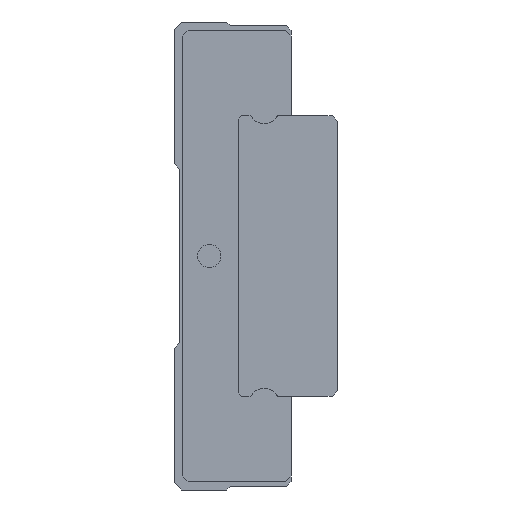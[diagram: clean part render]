
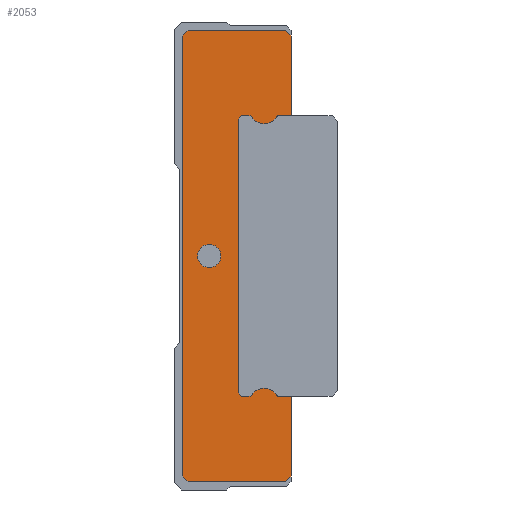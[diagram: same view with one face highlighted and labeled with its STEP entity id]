
A CAD part, left-side view. The second image highlights one B-rep face of the part: STEP entity #2053.
In plain terms, the highlighted planar face has unit normal (-1, 0, 0).
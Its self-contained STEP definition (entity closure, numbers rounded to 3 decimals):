
#81=CIRCLE('',#2239,1.);
#82=CIRCLE('',#2240,0.15);
#83=CIRCLE('',#2241,1.25);
#84=CIRCLE('',#2242,0.15);
#85=CIRCLE('',#2243,0.15);
#86=CIRCLE('',#2244,1.25);
#87=CIRCLE('',#2245,0.15);
#309=ORIENTED_EDGE('',*,*,#799,.T.);
#310=ORIENTED_EDGE('',*,*,#800,.T.);
#311=ORIENTED_EDGE('',*,*,#767,.F.);
#312=ORIENTED_EDGE('',*,*,#801,.F.);
#313=ORIENTED_EDGE('',*,*,#802,.F.);
#314=ORIENTED_EDGE('',*,*,#803,.F.);
#315=ORIENTED_EDGE('',*,*,#804,.F.);
#316=ORIENTED_EDGE('',*,*,#805,.F.);
#317=ORIENTED_EDGE('',*,*,#806,.F.);
#318=ORIENTED_EDGE('',*,*,#807,.F.);
#319=ORIENTED_EDGE('',*,*,#769,.F.);
#320=ORIENTED_EDGE('',*,*,#808,.F.);
#321=ORIENTED_EDGE('',*,*,#809,.T.);
#322=ORIENTED_EDGE('',*,*,#810,.F.);
#323=ORIENTED_EDGE('',*,*,#811,.T.);
#324=ORIENTED_EDGE('',*,*,#812,.T.);
#325=ORIENTED_EDGE('',*,*,#813,.T.);
#326=ORIENTED_EDGE('',*,*,#814,.T.);
#327=ORIENTED_EDGE('',*,*,#815,.T.);
#328=ORIENTED_EDGE('',*,*,#816,.T.);
#329=ORIENTED_EDGE('',*,*,#817,.T.);
#330=ORIENTED_EDGE('',*,*,#818,.F.);
#331=ORIENTED_EDGE('',*,*,#819,.T.);
#767=EDGE_CURVE('',#1031,#1023,#1215,.T.);
#769=EDGE_CURVE('',#1032,#1034,#1217,.T.);
#799=EDGE_CURVE('',#1061,#1061,#81,.T.);
#800=EDGE_CURVE('',#1062,#1023,#1240,.T.);
#801=EDGE_CURVE('',#1063,#1031,#1241,.T.);
#802=EDGE_CURVE('',#1064,#1063,#1242,.T.);
#803=EDGE_CURVE('',#1065,#1064,#1243,.T.);
#804=EDGE_CURVE('',#1066,#1065,#1244,.T.);
#805=EDGE_CURVE('',#1067,#1066,#1245,.T.);
#806=EDGE_CURVE('',#1068,#1067,#1246,.T.);
#807=EDGE_CURVE('',#1034,#1068,#1247,.T.);
#808=EDGE_CURVE('',#1069,#1032,#1248,.T.);
#809=EDGE_CURVE('',#1069,#1070,#82,.T.);
#810=EDGE_CURVE('',#1071,#1070,#83,.T.);
#811=EDGE_CURVE('',#1071,#1072,#84,.T.);
#812=EDGE_CURVE('',#1072,#1073,#1249,.T.);
#813=EDGE_CURVE('',#1073,#1074,#1250,.T.);
#814=EDGE_CURVE('',#1074,#1075,#1251,.T.);
#815=EDGE_CURVE('',#1075,#1076,#1252,.T.);
#816=EDGE_CURVE('',#1076,#1077,#1253,.T.);
#817=EDGE_CURVE('',#1077,#1078,#85,.T.);
#818=EDGE_CURVE('',#1079,#1078,#86,.T.);
#819=EDGE_CURVE('',#1079,#1062,#87,.T.);
#1023=VERTEX_POINT('',#3085);
#1031=VERTEX_POINT('',#3101);
#1032=VERTEX_POINT('',#3105);
#1034=VERTEX_POINT('',#3108);
#1061=VERTEX_POINT('',#3167);
#1062=VERTEX_POINT('',#3169);
#1063=VERTEX_POINT('',#3171);
#1064=VERTEX_POINT('',#3173);
#1065=VERTEX_POINT('',#3175);
#1066=VERTEX_POINT('',#3177);
#1067=VERTEX_POINT('',#3179);
#1068=VERTEX_POINT('',#3181);
#1069=VERTEX_POINT('',#3184);
#1070=VERTEX_POINT('',#3186);
#1071=VERTEX_POINT('',#3188);
#1072=VERTEX_POINT('',#3190);
#1073=VERTEX_POINT('',#3192);
#1074=VERTEX_POINT('',#3194);
#1075=VERTEX_POINT('',#3196);
#1076=VERTEX_POINT('',#3198);
#1077=VERTEX_POINT('',#3200);
#1078=VERTEX_POINT('',#3202);
#1079=VERTEX_POINT('',#3204);
#1215=LINE('',#3102,#1435);
#1217=LINE('',#3107,#1437);
#1240=LINE('',#3168,#1460);
#1241=LINE('',#3170,#1461);
#1242=LINE('',#3172,#1462);
#1243=LINE('',#3174,#1463);
#1244=LINE('',#3176,#1464);
#1245=LINE('',#3178,#1465);
#1246=LINE('',#3180,#1466);
#1247=LINE('',#3182,#1467);
#1248=LINE('',#3183,#1468);
#1249=LINE('',#3191,#1469);
#1250=LINE('',#3193,#1470);
#1251=LINE('',#3195,#1471);
#1252=LINE('',#3197,#1472);
#1253=LINE('',#3199,#1473);
#1435=VECTOR('',#2524,1000.);
#1437=VECTOR('',#2528,1000.);
#1460=VECTOR('',#2571,1000.);
#1461=VECTOR('',#2572,1000.);
#1462=VECTOR('',#2573,1000.);
#1463=VECTOR('',#2574,1000.);
#1464=VECTOR('',#2575,1000.);
#1465=VECTOR('',#2576,1000.);
#1466=VECTOR('',#2577,1000.);
#1467=VECTOR('',#2578,1000.);
#1468=VECTOR('',#2579,1000.);
#1469=VECTOR('',#2586,1000.);
#1470=VECTOR('',#2587,1000.);
#1471=VECTOR('',#2588,1000.);
#1472=VECTOR('',#2589,1000.);
#1473=VECTOR('',#2590,1000.);
#1672=EDGE_LOOP('',(#309));
#1673=EDGE_LOOP('',(#310,#311,#312,#313,#314,#315,#316,#317,#318,#319,#320,
#321,#322,#323,#324,#325,#326,#327,#328,#329,#330,#331));
#1832=FACE_BOUND('',#1672,.T.);
#1833=FACE_BOUND('',#1673,.T.);
#1954=PLANE('',#2238);
#2053=ADVANCED_FACE('',(#1832,#1833),#1954,.F.);
#2238=AXIS2_PLACEMENT_3D('',#3165,#2567,#2568);
#2239=AXIS2_PLACEMENT_3D('',#3166,#2569,#2570);
#2240=AXIS2_PLACEMENT_3D('',#3185,#2580,#2581);
#2241=AXIS2_PLACEMENT_3D('',#3187,#2582,#2583);
#2242=AXIS2_PLACEMENT_3D('',#3189,#2584,#2585);
#2243=AXIS2_PLACEMENT_3D('',#3201,#2591,#2592);
#2244=AXIS2_PLACEMENT_3D('',#3203,#2593,#2594);
#2245=AXIS2_PLACEMENT_3D('',#3205,#2595,#2596);
#2524=DIRECTION('',(0.,0.,-1.));
#2528=DIRECTION('',(0.,0.,-1.));
#2567=DIRECTION('',(1.,0.,0.));
#2568=DIRECTION('',(0.,0.,-1.));
#2569=DIRECTION('',(1.,0.,0.));
#2570=DIRECTION('',(0.,0.,-1.));
#2571=DIRECTION('',(0.,-1.,0.));
#2572=DIRECTION('',(0.,-0.707,-0.707));
#2573=DIRECTION('',(0.,-1.,0.));
#2574=DIRECTION('',(0.,-0.707,0.707));
#2575=DIRECTION('',(0.,0.,1.));
#2576=DIRECTION('',(0.,0.707,0.707));
#2577=DIRECTION('',(0.,1.,0.));
#2578=DIRECTION('',(0.,0.707,-0.707));
#2579=DIRECTION('',(0.,-1.,0.));
#2580=DIRECTION('',(1.,0.,0.));
#2581=DIRECTION('',(0.,0.,-1.));
#2582=DIRECTION('',(1.,0.,0.));
#2583=DIRECTION('',(0.,0.,-1.));
#2584=DIRECTION('',(1.,0.,0.));
#2585=DIRECTION('',(0.,0.,-1.));
#2586=DIRECTION('',(0.,1.,0.));
#2587=DIRECTION('',(0.,0.707,0.707));
#2588=DIRECTION('',(0.,0.,1.));
#2589=DIRECTION('',(0.,-0.707,0.707));
#2590=DIRECTION('',(0.,-1.,0.));
#2591=DIRECTION('',(1.,0.,0.));
#2592=DIRECTION('',(0.,0.,-1.));
#2593=DIRECTION('',(1.,0.,0.));
#2594=DIRECTION('',(0.,0.,-1.));
#2595=DIRECTION('',(1.,0.,0.));
#2596=DIRECTION('',(0.,0.,-1.));
#3085=CARTESIAN_POINT('',(-29.75,0.,12.));
#3101=CARTESIAN_POINT('',(-29.75,0.,18.8));
#3102=CARTESIAN_POINT('',(-29.75,0.,18.8));
#3105=CARTESIAN_POINT('',(-29.75,0.,-12.));
#3107=CARTESIAN_POINT('',(-29.75,0.,18.8));
#3108=CARTESIAN_POINT('',(-29.75,0.,-18.8));
#3165=CARTESIAN_POINT('',(-29.75,0.,0.));
#3166=CARTESIAN_POINT('',(-29.75,7.,0.));
#3167=CARTESIAN_POINT('',(-29.75,7.,-1.));
#3168=CARTESIAN_POINT('',(-29.75,1.088,12.));
#3169=CARTESIAN_POINT('',(-29.75,1.088,12.));
#3170=CARTESIAN_POINT('',(-29.75,0.5,19.3));
#3171=CARTESIAN_POINT('',(-29.75,0.5,19.3));
#3172=CARTESIAN_POINT('',(-29.75,8.8,19.3));
#3173=CARTESIAN_POINT('',(-29.75,8.8,19.3));
#3174=CARTESIAN_POINT('',(-29.75,9.3,18.8));
#3175=CARTESIAN_POINT('',(-29.75,9.3,18.8));
#3176=CARTESIAN_POINT('',(-29.75,9.3,-18.8));
#3177=CARTESIAN_POINT('',(-29.75,9.3,-18.8));
#3178=CARTESIAN_POINT('',(-29.75,8.8,-19.3));
#3179=CARTESIAN_POINT('',(-29.75,8.8,-19.3));
#3180=CARTESIAN_POINT('',(-29.75,0.5,-19.3));
#3181=CARTESIAN_POINT('',(-29.75,0.5,-19.3));
#3182=CARTESIAN_POINT('',(-29.75,0.,-18.8));
#3183=CARTESIAN_POINT('',(-29.75,0.,-12.));
#3184=CARTESIAN_POINT('',(-29.75,1.088,-12.));
#3185=CARTESIAN_POINT('',(-29.75,1.088,-11.85));
#3186=CARTESIAN_POINT('',(-29.75,1.217,-11.925));
#3187=CARTESIAN_POINT('',(-29.75,2.3,-12.55));
#3188=CARTESIAN_POINT('',(-29.75,3.383,-11.925));
#3189=CARTESIAN_POINT('',(-29.75,3.512,-11.85));
#3190=CARTESIAN_POINT('',(-29.75,3.512,-12.));
#3191=CARTESIAN_POINT('',(-29.75,3.512,-12.));
#3192=CARTESIAN_POINT('',(-29.75,4.2,-12.));
#3193=CARTESIAN_POINT('',(-29.75,4.2,-12.));
#3194=CARTESIAN_POINT('',(-29.75,4.5,-11.7));
#3195=CARTESIAN_POINT('',(-29.75,4.5,-11.7));
#3196=CARTESIAN_POINT('',(-29.75,4.5,11.7));
#3197=CARTESIAN_POINT('',(-29.75,4.5,11.7));
#3198=CARTESIAN_POINT('',(-29.75,4.2,12.));
#3199=CARTESIAN_POINT('',(-29.75,4.2,12.));
#3200=CARTESIAN_POINT('',(-29.75,3.512,12.));
#3201=CARTESIAN_POINT('',(-29.75,3.512,11.85));
#3202=CARTESIAN_POINT('',(-29.75,3.383,11.925));
#3203=CARTESIAN_POINT('',(-29.75,2.3,12.55));
#3204=CARTESIAN_POINT('',(-29.75,1.217,11.925));
#3205=CARTESIAN_POINT('',(-29.75,1.088,11.85));
